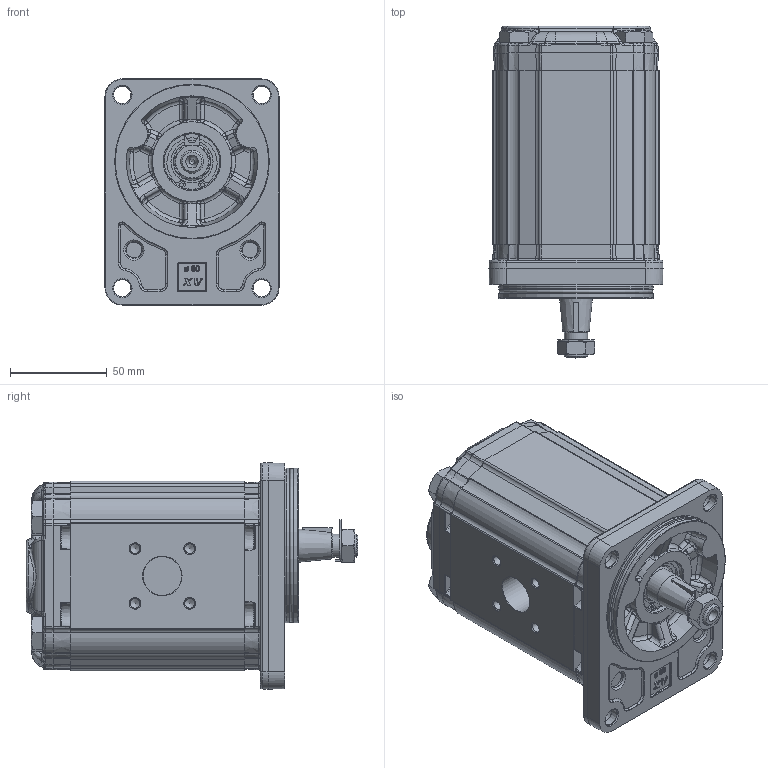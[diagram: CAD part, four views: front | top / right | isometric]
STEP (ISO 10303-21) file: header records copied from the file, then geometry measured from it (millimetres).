
FILE_DESCRIPTION(/* description */ ('Unknown'),/* implementation_level */ '2;1');
FILE_NAME(/* name */ 'X2P5941FSSA',/* time_stamp */ '2026-06-03T17:48:11+02:00',/* author */ ('Unknown'),/* organization */ ('Unknown'),/* preprocessor_version */ 'ST-DEVELOPER v16.7',/* originating_system */ 'Solid Edge',/* authorisation */ 'Unknown');
FILE_SCHEMA (('AUTOMOTIVE_DESIGN {1 0 10303 214 3 1 1}'));
Products named in the file (5): X2P5941FSSA; X2P41; 2F; X2SSH90; XP217-A
Assembly tree (4 placements, depth 2):
  X2P5941FSSA
    X2P41
    2F
    X2SSH90
    XP217-A
Bounding box: 89.99 x 171.65 x 116.99 mm (x, y, z)
Volume: 983057.4 mm3; surface area: 133079.2 mm2
Topology: 4 solids, 8 shells, 2612 faces, 6385 edges, 3842 vertices
Faces by surface type: bspline 707, cylinder 699, plane 617, cone 273, torus 252, sphere 64
Full cylindrical faces by diameter (mm): 2 x2, 3.973 x2, 5 x8, 8.376 x2, 8.5 x2, 9 x12, 10 x6, 10.5 x12, 12 x2, 12.5 x1, 16 x4, 17.42 x1, 17.48 x2, 18.724 x1, 20 x2, 20.595 x1, 21.741 x1, 25 x1, 25.834 x1, 28.56 x1, 28.57 x1, 28.8 x1, 30.5 x1, 77.2 x2, 80 x2
Entity records: 134486 total; most frequent: CARTESIAN_POINT 61587, ORIENTED_EDGE 12034, DIRECTION 9814, EDGE_CURVE 6017, AXIS2_PLACEMENT_3D 3974, VERTEX_POINT 3750, FACE_BOUND 2965, EDGE_LOOP 2955
